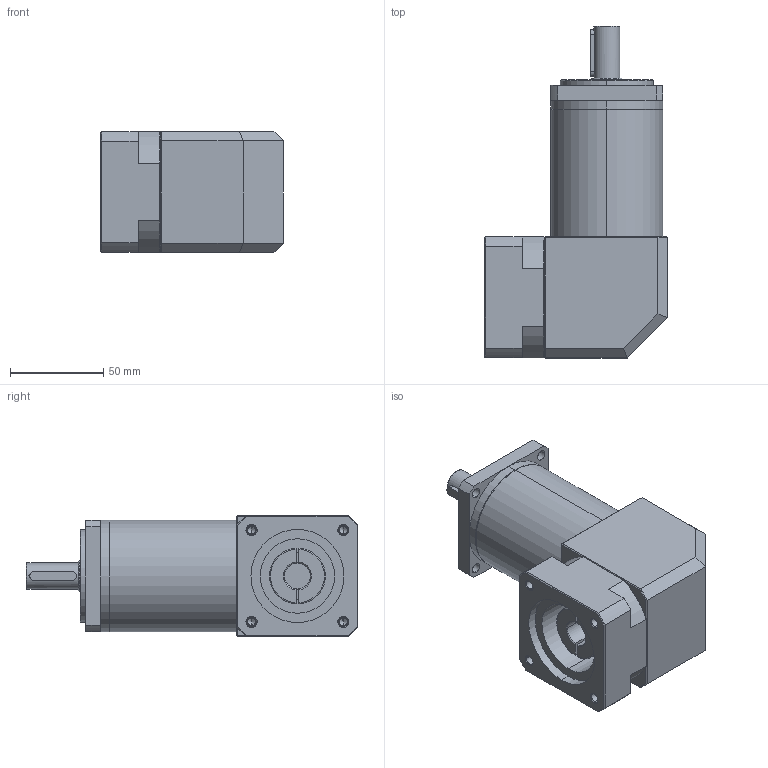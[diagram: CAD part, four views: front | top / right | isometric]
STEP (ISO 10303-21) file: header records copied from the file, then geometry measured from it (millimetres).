
FILE_DESCRIPTION((''),'2;1');
FILE_NAME('ASM0007_ASM','2017-06-15T',('Administrator'),(''),'PRO/ENGINEER BY PARAMETRIC TECHNOLOGY CORPORATION, 2013230','PRO/ENGINEER BY PARAMETRIC TECHNOLOGY CORPORATION, 2013230','');
FILE_SCHEMA(('CONFIG_CONTROL_DESIGN'));
Length unit declared in the file: millimetre
Products named in the file (7): ZFR60输入法兰; ZFR60蛌褒眊极; PRT0089; PRT0099; PRT0100; PRT0101; ASM0007_ASM
Assembly tree (6 placements, depth 2):
  ASM0007_ASM
    ZFR60输入法兰
    ZFR60蛌褒眊极
    PRT0089
    PRT0099
    PRT0100
    PRT0101
Bounding box: 98.1 x 178.3 x 65 mm (x, y, z)
Volume: 475383.4 mm3; surface area: 90922.2 mm2
Topology: 6 solids, 6 shells, 212 faces, 510 edges, 315 vertices
Faces by surface type: plane 83, cylinder 76, cone 45, torus 8
Entity records: 6460 total; most frequent: CARTESIAN_POINT 1255, DIRECTION 1143, ORIENTED_EDGE 1000, EDGE_CURVE 500, AXIS2_PLACEMENT_3D 452, VERTEX_POINT 315, EDGE_LOOP 243, VECTOR 239
